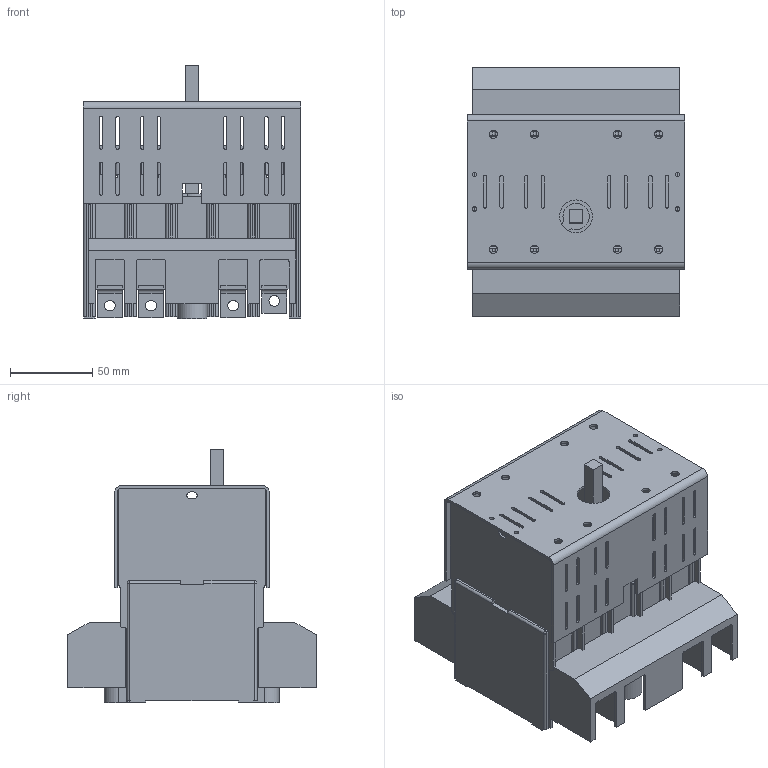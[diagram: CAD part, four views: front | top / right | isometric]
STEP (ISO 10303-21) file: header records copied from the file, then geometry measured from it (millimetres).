
FILE_DESCRIPTION(/* description */ (''),/* implementation_level */ '2;1');
FILE_NAME(/* name */ 'RAB 000 P3 NA, P4 A z oslona zaciskow.stp',/* time_stamp */ '2021-08-19T09:39:26+02:00',/* author */ (''),/* organization */ (''),/* preprocessor_version */ 'ST-DEVELOPER v18.1',/* originating_system */ 'SIEMENS PLM Software NX 1965',/* authorisation */ '');
FILE_SCHEMA (('AUTOMOTIVE_DESIGN { 1 0 10303 214 3 1 1 1 }'));
Length unit declared in the file: millimetre
Products named in the file (1): RAB 000 P3 NA, P4 A z oslona zaciskow_stp
Bounding box: 132.5 x 151.03 x 154 mm (x, y, z)
Volume: 771323.8 mm3; surface area: 260813.5 mm2
Topology: 1 solids, 1 shells, 1262 faces, 3663 edges, 2367 vertices
Faces by surface type: plane 850, cylinder 388, sphere 23, bspline 1
Full cylindrical faces by diameter (mm): 2.7 x4, 5 x8, 5.8 x2, 6.5 x8, 10 x2, 11.5 x2, 20 x1
Entity records: 41316 total; most frequent: CARTESIAN_POINT 7600, ORIENTED_EDGE 7196, DIRECTION 6778, EDGE_CURVE 3598, LINE 2728, VECTOR 2728, VERTEX_POINT 2353, AXIS2_PLACEMENT_3D 2025
